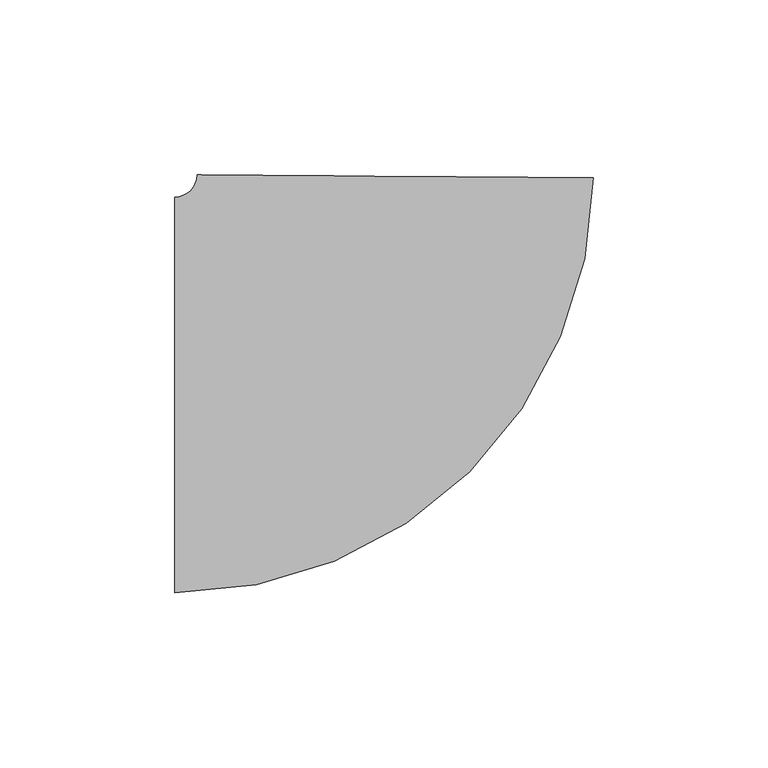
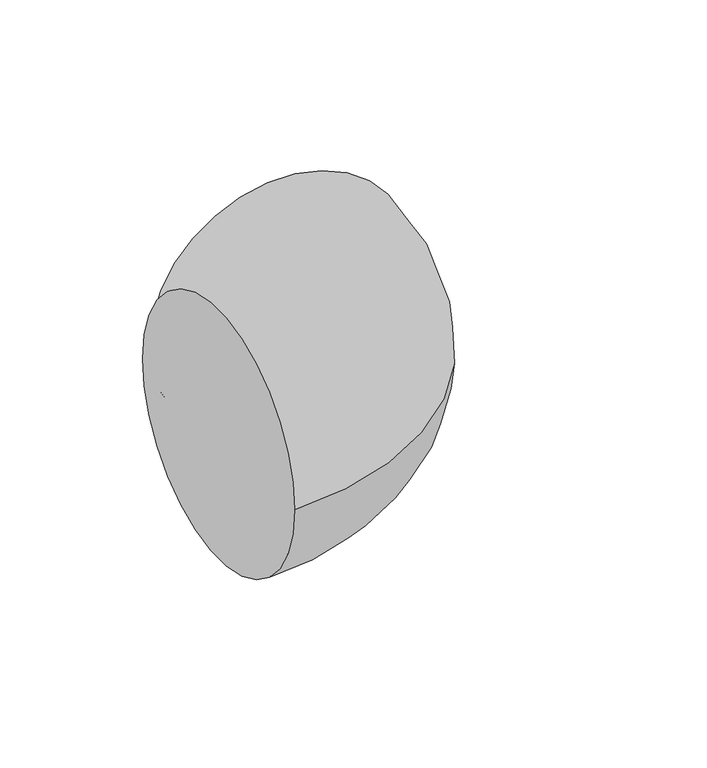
"""IFC4 building model written with IfcOpenShell, lengths in millimetres: pipe fitting geometry, M_Codo - Genérico : Estándar."""

import ifcopenshell
import ifcopenshell.guid

model = None  # the IFC model being written
_history = None  # IfcOwnerHistory: only IFC2X3 demands one
_inside = {}  # id of a spatial element -> (the spatial element, [elements in it])
_under = {}  # id of a project, library or spatial element -> (it, [spatial elements below it])
_declared = {}  # id of a project -> (the project, [libraries it declares])
_typed = {}  # id of a type object -> (the type object, [elements of that type])
_made_of = {}  # id of a material, layer set ... -> (it, [elements and type objects made of it])


def new_model(schema):
    """Start an empty IFC model of exactly this schema.

    Asked for "IFC4X3", IfcOpenShell would pick the latest addendum, in which some entities
    have other attributes; the version numbers below select the first issue.
    IFC2X3 requires an IfcOwnerHistory on every rooted entity: one is made here for all.
    """
    global model, _history
    if schema == "IFC4X3":
        model = ifcopenshell.file(schema_version=(4, 3, 0, 0))
    else:
        model = ifcopenshell.file(schema=schema)
    _inside.clear()
    _under.clear()
    _declared.clear()
    _typed.clear()
    _made_of.clear()
    _history = None
    if model.schema == "IFC2X3":
        org = make("IfcOrganization", Name="unknown")
        user = make(
            "IfcPersonAndOrganization",
            ThePerson=make("IfcPerson", FamilyName="unknown"),
            TheOrganization=org,
        )
        app = make(
            "IfcApplication",
            ApplicationDeveloper=org,
            Version="unknown",
            ApplicationFullName="unknown",
            ApplicationIdentifier="unknown",
        )
        _history = make(
            "IfcOwnerHistory",
            OwningUser=user,
            OwningApplication=app,
            ChangeAction="ADDED",
            CreationDate=0,
        )
    return model


def make(cls, **values):
    """One entity of the class cls with the attributes given. An attribute that is None is left unset."""
    return model.create_entity(
        cls, **{name: value for name, value in values.items() if value is not None}
    )


def rooted(cls, **values):
    """An entity with a GlobalId (a new one), such as an element, a storey or a relation."""
    return make(cls, GlobalId=ifcopenshell.guid.new(), OwnerHistory=_history, **values)


def si_unit(unit_type, name, prefix=None):
    """IfcSIUnit, for example si_unit("LENGTHUNIT", "METRE", prefix="MILLI")."""
    return make("IfcSIUnit", UnitType=unit_type, Prefix=prefix, Name=name)


def assignment(units):
    """IfcUnitAssignment: the units of a project."""
    return None if units is None else make("IfcUnitAssignment", Units=units)


def point(xyz):
    """IfcCartesianPoint."""
    return None if xyz is None else make("IfcCartesianPoint", Coordinates=xyz)


def direction(xyz):
    """IfcDirection."""
    return None if xyz is None else make("IfcDirection", DirectionRatios=xyz)


def frame(location, z_axis=None, x_axis=None):
    """IfcAxis2Placement3D, a coordinate frame: its origin and axes. An axis left out is left unset."""
    return make(
        "IfcAxis2Placement3D",
        Location=point(location),
        Axis=direction(z_axis),
        RefDirection=direction(x_axis),
    )


def origin():
    """The frame at (0, 0, 0) with its axes left unset."""
    return frame((0.0, 0.0, 0.0))


def place(relative_to, where):
    """IfcLocalPlacement: puts the frame where relative to a parent placement (None: the world)."""
    return make(
        "IfcLocalPlacement", PlacementRelTo=relative_to, RelativePlacement=where
    )


def context(
    kind, dimensions, precision=None, world=None, true_north=None, identifier=None
):
    """IfcGeometricRepresentationContext, for example the 3D "Model" context."""
    return make(
        "IfcGeometricRepresentationContext",
        ContextIdentifier=identifier,
        ContextType=kind,
        CoordinateSpaceDimension=dimensions,
        Precision=precision,
        WorldCoordinateSystem=world,
        TrueNorth=true_north,
    )


def project(units=None, contexts=None):
    """IfcProject with its units and contexts."""
    return rooted(
        "IfcProject",
        Name="project",
        RepresentationContexts=contexts,
        UnitsInContext=assignment(units),
    )


def spatial(cls, under=None, at=None, **own):
    """A site, building, storey or space (cls), placed at a placement, below another one or the project."""
    s = rooted(cls, ObjectPlacement=at, **own)
    if under is not None:
        _under.setdefault(under.id(), (under, []))[1].append(s)
    return s


def circle_curve(where, radius):
    """IfcCircle in the frame where."""
    return make("IfcCircle", Position=where, Radius=radius)


def ellipse_curve(where, semi_axis1, semi_axis2):
    """IfcEllipse in the frame where."""
    return make(
        "IfcEllipse", Position=where, SemiAxis1=semi_axis1, SemiAxis2=semi_axis2
    )


def trimmed(basis, trim1, trim2, sense, master):
    """IfcTrimmedCurve: the piece of a basis curve between two trims."""
    return make(
        "IfcTrimmedCurve",
        BasisCurve=basis,
        Trim1=trim1,
        Trim2=trim2,
        SenseAgreement=sense,
        MasterRepresentation=master,
    )


def shape(context_of_items, identifier, shape_type, items):
    """IfcShapeRepresentation: the items that make up one representation, for example the "Body"."""
    return make(
        "IfcShapeRepresentation",
        ContextOfItems=context_of_items,
        RepresentationIdentifier=identifier,
        RepresentationType=shape_type,
        Items=items,
    )


def source(mapping_origin, context_of_items, identifier, shape_type, items):
    """IfcRepresentationMap: a shape defined once, which mapped items show again and again."""
    return make(
        "IfcRepresentationMap",
        MappingOrigin=mapping_origin,
        MappedRepresentation=shape(context_of_items, identifier, shape_type, items),
    )


def transform(
    local_origin,
    x_axis=None,
    y_axis=None,
    z_axis=None,
    scale=None,
    scale2=None,
    scale3=None,
    uniform=True,
):
    """IfcCartesianTransformationOperator3D, or its non-uniform kind. x_axis, y_axis, z_axis: its Axis1, 2, 3."""
    if uniform:
        return make(
            "IfcCartesianTransformationOperator3D",
            Axis1=direction(x_axis),
            Axis2=direction(y_axis),
            LocalOrigin=point(local_origin),
            Scale=scale,
            Axis3=direction(z_axis),
        )
    return make(
        "IfcCartesianTransformationOperator3DnonUniform",
        Axis1=direction(x_axis),
        Axis2=direction(y_axis),
        LocalOrigin=point(local_origin),
        Scale=scale,
        Axis3=direction(z_axis),
        Scale2=scale2,
        Scale3=scale3,
    )


def mapped(mapping_source, mapping_target):
    """IfcMappedItem: shows the shape of a source again, moved by a transform."""
    return make(
        "IfcMappedItem", MappingSource=mapping_source, MappingTarget=mapping_target
    )


def made_of(thing, what):
    """Note that an element or type object is made of a material, layer set ...; save() writes the relation."""
    if what is not None:
        _made_of.setdefault(what.id(), (what, []))[1].append(thing)
    return thing


def element(
    cls,
    number,
    at=None,
    inside=None,
    cuts=None,
    type_object=None,
    material=None,
    context=None,
    identifier="Body",
    shape_type=None,
    held_by="IfcProductDefinitionShape",
    body=None,
    shapes=None,
    **own,
):
    """One element of the class cls, such as IfcWall. Its Tag is "e" and its number.

    at: its placement. inside: the storey or other place that contains it. cuts: it is an
    opening in that element (IfcRelVoidsElement). A single representation is given by context,
    identifier, shape_type and body (its items); several are given by shapes. held_by: the class
    of the entity that holds the representations. save() writes the other relations.
    """
    e = rooted(cls, Tag="e%d" % number, ObjectPlacement=at, **own)
    if body is not None:
        shapes = [shape(context, identifier, shape_type, body)]
    if shapes is not None:
        e.Representation = make(held_by, Representations=shapes)
    if inside is not None:
        _inside.setdefault(inside.id(), (inside, []))[1].append(e)
    if cuts is not None:
        rooted(
            "IfcRelVoidsElement", RelatingBuildingElement=cuts, RelatedOpeningElement=e
        )
    if type_object is not None:
        _typed.setdefault(type_object.id(), (type_object, []))[1].append(e)
    return made_of(e, material)


def aggregate(whole, parts):
    """IfcRelAggregates: a whole, such as a stair, and the parts it consists of."""
    return rooted("IfcRelAggregates", RelatingObject=whole, RelatedObjects=parts)


def save(model, path):
    """Write the relations noted so far, then the file.

    IfcRelAggregates (storeys below a building ...), IfcRelContainedInSpatialStructure (elements
    in a storey), IfcRelDefinesByType, IfcRelAssociatesMaterial and IfcRelDeclares: one each for
    every whole, place, type object, material and project.
    """
    for whole, parts in _under.values():
        aggregate(whole, parts)
    for where, things in _inside.values():
        rooted(
            "IfcRelContainedInSpatialStructure",
            RelatedElements=things,
            RelatingStructure=where,
        )
    for kind, things in _typed.values():
        rooted("IfcRelDefinesByType", RelatedObjects=things, RelatingType=kind)
    for what, things in _made_of.values():
        rooted("IfcRelAssociatesMaterial", RelatedObjects=things, RelatingMaterial=what)
    for by, libraries in _declared.values():
        rooted("IfcRelDeclares", RelatingContext=by, RelatedDefinitions=libraries)
    model.write(path)


def plane_surface(at):
    """IfcPlane: the flat surface through the origin of the frame at, square to its z axis."""
    return make("IfcPlane", Position=at)


def revolved_surface(curve, axis_point, axis_direction):
    """IfcSurfaceOfRevolution: the curve turned about the line through axis_point along axis_direction."""
    return make(
        "IfcSurfaceOfRevolution",
        SweptCurve=make("IfcArbitraryOpenProfileDef", ProfileType="CURVE", Curve=curve),
        AxisPosition=make("IfcAxis1Placement", Location=point(axis_point), Axis=direction(axis_direction)),
    )


def advanced_brep(points, edges, surfaces, faces):
    """IfcAdvancedBrep: a solid bounded by faces that lie on surfaces and meet in shared edges.

    An edge is (start, end): straight between two places in points (the first is 0);
    or (start, end, curve); or (start, end, curve, False) where it runs against its curve.
    A face is (place in surfaces, loops), or (place, loops, False) where it looks against
    its surface's normal. A loop lists edges by number (the first is 1), with a minus sign
    where the edge is run from its end to its start. The first loop is the outer one.
    """
    corners = [point(p) for p in points]
    vertices = [make("IfcVertexPoint", VertexGeometry=c) for c in corners]
    made = []
    for start, end, *more in edges:
        made.append(
            make(
                "IfcEdgeCurve",
                EdgeStart=vertices[start],
                EdgeEnd=vertices[end],
                EdgeGeometry=more[0] if more else make("IfcPolyline", Points=[corners[start], corners[end]]),
                SameSense=more[1] if len(more) > 1 else True,
            )
        )
    hull = []
    for where, loops, *sense in faces:
        bounds = []
        for j, loop in enumerate(loops):
            ring = [make("IfcOrientedEdge", EdgeElement=made[abs(k) - 1], Orientation=k > 0) for k in loop]
            bounds.append(
                make(
                    "IfcFaceOuterBound" if j == 0 else "IfcFaceBound",
                    Bound=make("IfcEdgeLoop", EdgeList=ring),
                    Orientation=True,
                )
            )
        hull.append(make("IfcAdvancedFace", Bounds=bounds, FaceSurface=surfaces[where], SameSense=sense[0] if sense else True))
    return make("IfcAdvancedBrep", Outer=make("IfcClosedShell", CfsFaces=hull))


def pipe_fitting_dc1c2671(model_context):
    return source(origin(), model_context, "Body", "AdvancedBrep", [
        advanced_brep(
        [(-62.4831647, -56.5875, 0.0), (-62.4831647, 56.5875, 0.0), (57.0386985, 62.0715547, 0.0), (-56.1333313, 62.891495, 0.0)],
        [
            (0, 1, circle_curve(frame((-62.4831647, 0.0, 0.0), z_axis=(-1.0, 0.0, 0.0), x_axis=(0.0, 1.0, 0.0)), 56.5875)),
            (1, 0, circle_curve(frame((-62.4831647, 0.0, 0.0), z_axis=(-1.0, 0.0, 0.0), x_axis=(0.0, 1.0, 0.0)), 56.5875)),
            (2, 3, circle_curve(frame((0.4526836, 62.4815248, 0.0), z_axis=(0.007244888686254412, 0.9999737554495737, 0.0), x_axis=(-0.9999737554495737, 0.007244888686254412, 0.0)), 56.5875)),
            (3, 2, circle_curve(frame((0.4526836, 62.4815248, 0.0), z_axis=(0.007244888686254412, 0.9999737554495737, 0.0), x_axis=(-0.9999737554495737, 0.007244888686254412, 0.0)), 56.5875)),
            (3, 1, circle_curve(frame((-62.4831647, 62.9375, 0.0), z_axis=(0.0, 0.0, -1.0), x_axis=(0.0, -1.0, 0.0)), 6.35)),
            (0, 2, circle_curve(frame((-62.4831647, 62.9375, 0.0), z_axis=(0.0, 0.0, 1.0), x_axis=(0.0, -1.0, 0.0)), 119.525)),
        ],
        [
            plane_surface(frame((-62.4831647, 0.0, 0.0), z_axis=(-1.0, 0.0, 0.0), x_axis=(0.0, 0.0, 1.0))),
            plane_surface(frame((0.4526836, 62.4815248, 0.0), z_axis=(0.0072448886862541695, 0.9999737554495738, 0.0), x_axis=(0.0, 0.0, 1.0))),
            revolved_surface(trimmed(ellipse_curve(frame((-62.4831647, 0.0, 0.0), z_axis=(-1.0, 0.0, 0.0), x_axis=(0.0, 1.0, 0.0)), 56.5875, 56.5875), [point((-62.4831647, -56.5875, 0.0))], [point((-62.4831647, 56.5875, 0.0))], True, "CARTESIAN"), (-62.4831647, 62.9375, 0.0), (0.0, 0.0, 1.0)),
            revolved_surface(trimmed(ellipse_curve(frame((-62.4831647, 0.0, 0.0), z_axis=(-1.0, 0.0, 0.0), x_axis=(0.0, 1.0, 0.0)), 56.5875, 56.5875), [point((-62.4831647, 56.5875, 0.0))], [point((-62.4831647, -56.5875, 0.0))], True, "CARTESIAN"), (-62.4831647, 62.9375, 0.0), (0.0, 0.0, 1.0)),
        ],
        [
            (0, [[1, 2]]),
            (1, [[3, 4]]),
            (2, [[5, -1, 6, -4]]),
            (3, [[-6, -2, -5, -3]]),
        ],
    ),
    ])


if __name__ == "__main__":
    model = new_model("IFC4")
    model_context = context("Model", 3, world=origin())
    ifc_project = project(units=[si_unit("LENGTHUNIT", "METRE", prefix="MILLI")], contexts=[model_context])
    site = spatial("IfcSite", under=ifc_project)
    building = spatial("IfcBuilding", under=site)
    placement = place(None, origin())
    pipe_fitting_shape = pipe_fitting_dc1c2671(model_context)
    element("IfcPipeFitting", 1, ObjectType="M_Codo - Genérico : Estándar", at=placement, inside=building, context=model_context, shape_type="MappedRepresentation", body=[
        mapped(pipe_fitting_shape, transform((0.0, 0.0, 0.0), x_axis=(1.0, 0.0, 0.0), y_axis=(0.0, 1.0, 0.0), z_axis=(0.0, 0.0, 1.0))),
    ])
    save(model, "model.ifc")
